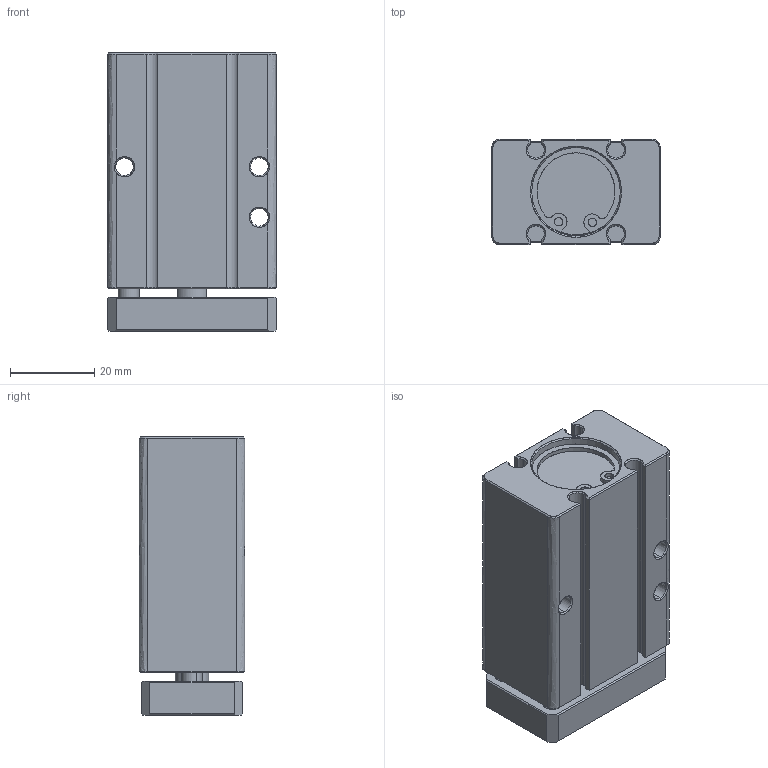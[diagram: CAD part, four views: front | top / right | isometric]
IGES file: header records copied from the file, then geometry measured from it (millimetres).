
Start section: SolidWorks IGES file using analytic representation for surfaces
Global section: file name: \\Cad54\eins\STAR_PARTS_CATALOG\02_container-cylinder\022_min\131015\131015.IGS; native system: SolidWorks 2006 by SolidWorks Corporation; preprocessor: SolidWorks 2006 by SolidWorks Corporation; author: CAD53; date: 071121.175626; units: millimetre
Bounding box: 40 x 25 x 66 mm (x, y, z)
Surface area: 30900.1 mm2 (no closed solid volume)
Topology: 0 solids, 0 shells, 558 faces, 7277 edges, 7259 vertices
Faces by surface type: revolution 340, bspline 218
